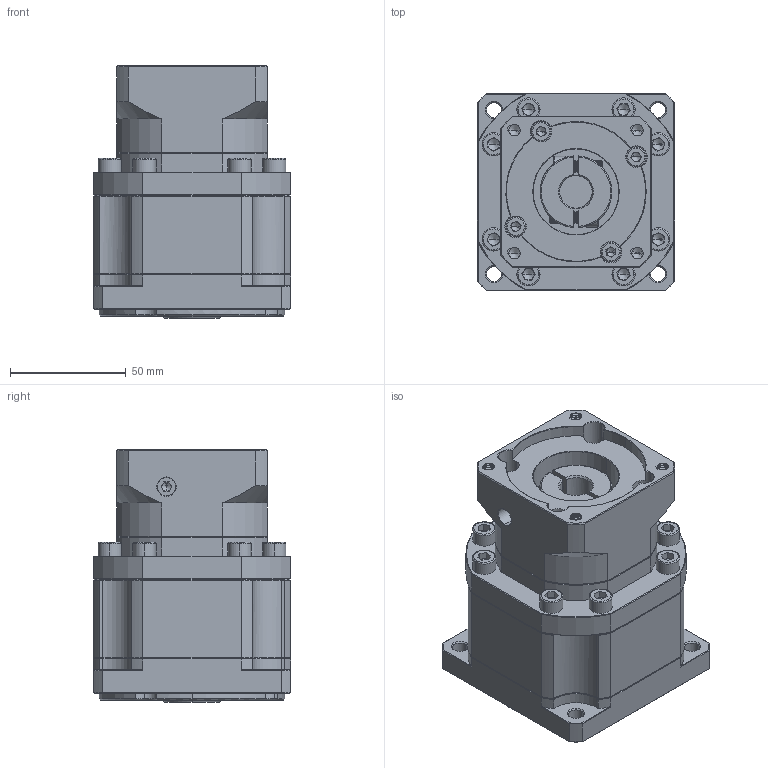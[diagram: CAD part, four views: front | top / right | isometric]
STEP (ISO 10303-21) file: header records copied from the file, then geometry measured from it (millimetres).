
FILE_DESCRIPTION (( 'STEP AP214' ), '1' );
FILE_NAME ('ZB90-K15-L2-14-60-75-M6.STEP', '2022-05-02T15:27:52', ( '' ), ( 'Microsoft' ), 'SwSTEP 2.0', 'SolidWorks 2016', '' );
FILE_SCHEMA (( 'AUTOMOTIVE_DESIGN' ));
Length unit declared in the file: millimetre
Products named in the file (1): ZB90-K15-L2-14-60-75-M6
Bounding box: 85 x 85 x 109 mm (x, y, z)
Volume: 520687 mm3; surface area: 75263.7 mm2
Topology: 6 solids, 6 shells, 2037 faces, 5352 edges, 3401 vertices
Faces by surface type: plane 998, cylinder 378, cone 321, bspline 318, torus 22
Entity records: 103848 total; most frequent: CARTESIAN_POINT 33621, ORIENTED_EDGE 10616, DIRECTION 8862, EDGE_CURVE 5308, VERTEX_POINT 3401, VECTOR 3294, LINE 3294, AXIS2_PLACEMENT_3D 2784
